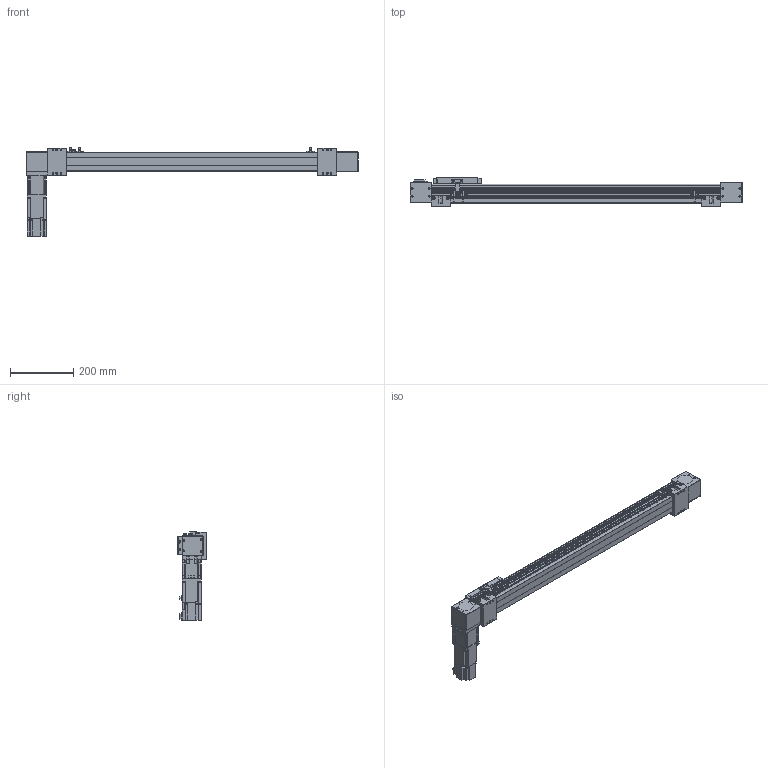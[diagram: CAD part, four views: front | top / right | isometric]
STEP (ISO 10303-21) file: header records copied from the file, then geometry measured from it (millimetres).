
FILE_DESCRIPTION(/* description */ ('STEP AP203'),/* implementation_level */ '2;1');
FILE_NAME(/* name */ 'SK60-P13-S750-BR-T40-C1-N(0)',/* time_stamp */ '2023-04-06T03:59:26+02:00',/* author */ ('License CC BY-ND 4.0'),/* organization */ ('CADENAS'),/* preprocessor_version */ 'ST-DEVELOPER v19.3',/* originating_system */ 'PARTsolutions',/* authorisation */ ' ');
FILE_SCHEMA (('CONFIG_CONTROL_DESIGN'));
Length unit declared in the file: millimetre
Products named in the file (11): SK60-P13-S750-BR-T40-C1-N(0); PSC140-sensor; SK60-S450_seat; SK60-S450-BL-C1_slider; SK60_body3; SK60_body6; SK60-BL_body2; T40-p1; SK60_body5; SK60_body4; SK60-S750-BR-C1_body
Assembly tree (17 placements, depth 2):
  SK60-P13-S750-BR-T40-C1-N(0)
    PSC140-sensor  x3
    SK60-S450_seat  x2
    SK60-S450-BL-C1_slider
    SK60_body3  x3
    SK60_body6  x2
    SK60-BL_body2  x2
    T40-p1
    SK60_body5
    SK60_body4
    SK60-S750-BR-C1_body
Bounding box: 1050 x 90 x 279.1 mm (x, y, z)
Volume: 4171717.7 mm3; surface area: 583781.4 mm2
Topology: 17 solids, 21 shells, 834 faces, 2109 edges, 1394 vertices
Faces by surface type: plane 544, cylinder 266, cone 22, torus 2
Full cylindrical faces by diameter (mm): 2.8 x3, 3.3 x4, 4.2 x8, 4.5 x26, 4.6 x3, 4.917 x16, 5 x2, 5.478 x4, 5.5 x19, 6.5 x4, 8 x4, 8.5 x4, 9.988 x4, 10 x8, 13.556 x1, 14 x1, 14.586 x1, 19.692 x1, 38.432 x2, 43 x1, 44 x3, 47 x2, 50 x2
Entity records: 19371 total; most frequent: DIRECTION 3292, CARTESIAN_POINT 3289, ORIENTED_EDGE 3050, EDGE_CURVE 1525, AXIS2_PLACEMENT_3D 1100, LINE 1092, VECTOR 1092, VERTEX_POINT 1077
